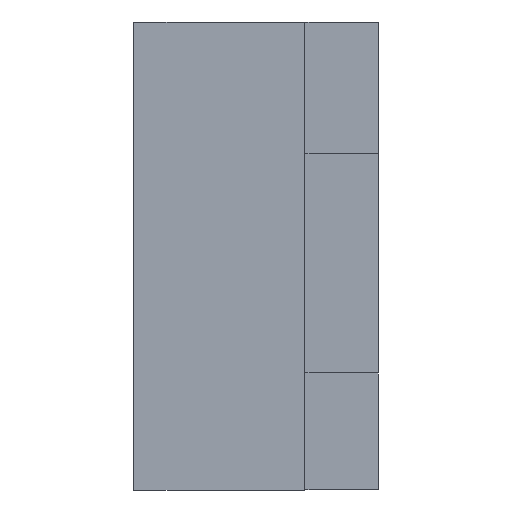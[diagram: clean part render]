
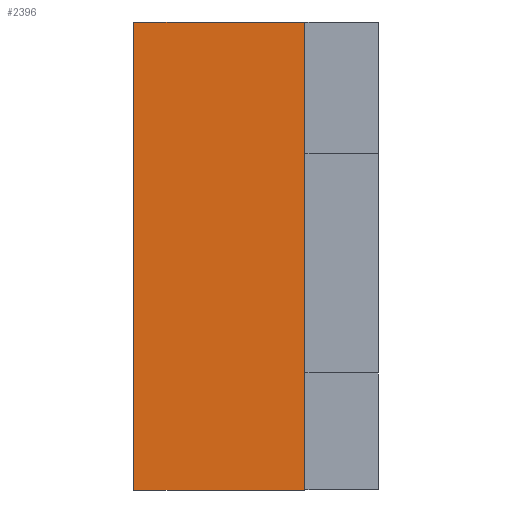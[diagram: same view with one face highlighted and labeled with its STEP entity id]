
A CAD part, left-side view. The second image highlights one B-rep face of the part: STEP entity #2396.
In plain terms, the highlighted planar face has unit normal (-1, 0, 0) as drawn and (1, 0, 0) by its records, which use the part's own axes.
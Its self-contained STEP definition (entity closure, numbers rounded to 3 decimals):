
#252=PLANE('',#2757);
#383=FACE_OUTER_BOUND('',#523,.T.);
#523=EDGE_LOOP('',(#2234,#2235,#2236,#2237));
#781=LINE('',#4016,#1063);
#799=LINE('',#4057,#1081);
#802=LINE('',#4063,#1084);
#805=LINE('',#4068,#1087);
#1063=VECTOR('',#3336,10.);
#1081=VECTOR('',#3380,10.);
#1084=VECTOR('',#3385,10.);
#1087=VECTOR('',#3390,10.);
#1308=VERTEX_POINT('',#4013);
#1309=VERTEX_POINT('',#4015);
#1319=VERTEX_POINT('',#4056);
#1321=VERTEX_POINT('',#4062);
#1605=EDGE_CURVE('',#1308,#1309,#781,.T.);
#1625=EDGE_CURVE('',#1309,#1319,#799,.T.);
#1628=EDGE_CURVE('',#1319,#1321,#802,.T.);
#1631=EDGE_CURVE('',#1321,#1308,#805,.T.);
#2234=ORIENTED_EDGE('',*,*,#1631,.F.);
#2235=ORIENTED_EDGE('',*,*,#1628,.F.);
#2236=ORIENTED_EDGE('',*,*,#1625,.F.);
#2237=ORIENTED_EDGE('',*,*,#1605,.F.);
#2396=ADVANCED_FACE('',(#383),#252,.F.);
#2757=AXIS2_PLACEMENT_3D('',#4070,#3392,#3393);
#3336=DIRECTION('',(0.,0.,1.));
#3380=DIRECTION('',(0.,1.,0.));
#3385=DIRECTION('',(0.,0.,-1.));
#3390=DIRECTION('',(0.,-1.,0.));
#3392=DIRECTION('center_axis',(-1.,0.,0.));
#3393=DIRECTION('ref_axis',(0.,0.,1.));
#4013=CARTESIAN_POINT('',(555.,0.,-240.));
#4015=CARTESIAN_POINT('',(555.,0.,240.));
#4016=CARTESIAN_POINT('',(555.,0.,-240.));
#4056=CARTESIAN_POINT('',(555.,175.,240.));
#4057=CARTESIAN_POINT('',(555.,0.,240.));
#4062=CARTESIAN_POINT('',(555.,175.,-240.));
#4063=CARTESIAN_POINT('',(555.,175.,240.));
#4068=CARTESIAN_POINT('',(555.,175.,-240.));
#4070=CARTESIAN_POINT('Origin',(555.,87.5,0.));
